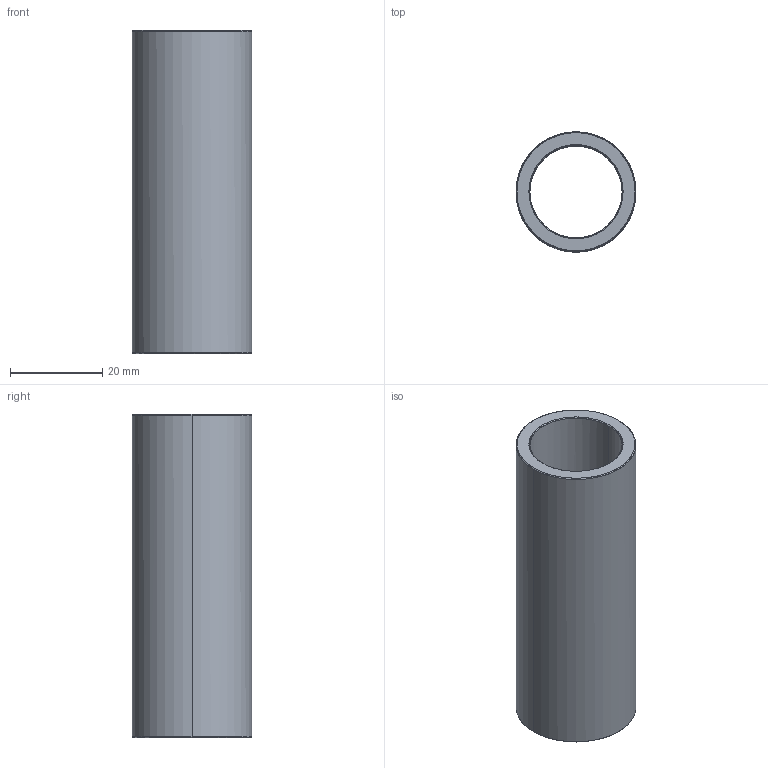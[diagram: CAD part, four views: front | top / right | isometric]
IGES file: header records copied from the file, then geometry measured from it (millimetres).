
Start section: Write IGES format                                    datakit 2008 (c)
Global section: file name: Unknown; native system: DATAKIT Converter; preprocessor: Unknown; author: Unknown; organization: Unknown; date: 950613.180003; units: millimetre
Bounding box: 26 x 26 x 70 mm (x, y, z)
Surface area: 10515.6 mm2 (no closed solid volume)
Topology: 0 solids, 0 shells, 14 faces, 56 edges, 56 vertices
Faces by surface type: revolution 12, bspline 2
